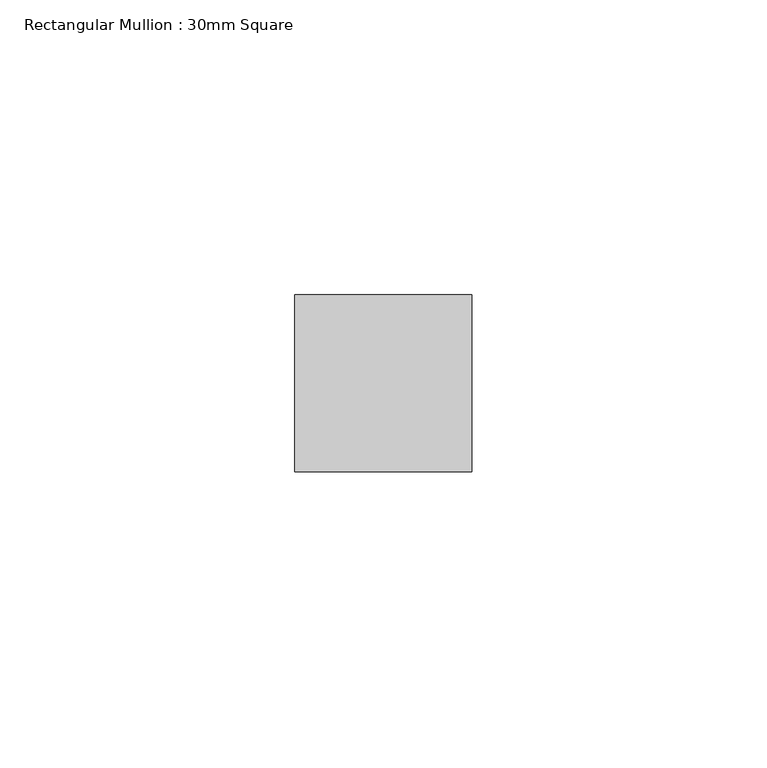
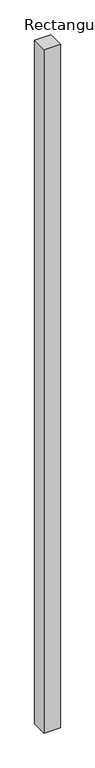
"""IFC4 building model written with IfcOpenShell, lengths in millimetres: member geometry, Rectangular Mullion : 30mm Square."""

from ifc_helpers import new_model, si_unit, frame, origin, place, context, project, spatial, polyline, outline, extrude, source, transform, mapped, element, save


def rectangular_mullion_30mm_square_374e1ff5(model_context):
    return source(origin(), model_context, "Body", "SweptSolid", [
        extrude(outline(polyline([(0.0, 15.0), (0.0, -15.0), (-30.0, -15.0), (-30.0, 15.0), (0.0, 15.0)])), frame((0.0, 0.0, -1333.8191487), z_axis=(0.0, 0.0, 1.0), x_axis=(1.0, 0.0, 0.0)), (0.0, 0.0, 1.0), 1333.8191487),
    ])


if __name__ == "__main__":
    model = new_model("IFC4")
    model_context = context("Model", 3, world=origin())
    ifc_project = project(units=[si_unit("LENGTHUNIT", "METRE", prefix="MILLI")], contexts=[model_context])
    site = spatial("IfcSite", under=ifc_project)
    building = spatial("IfcBuilding", under=site)
    placement = place(None, origin())
    rectangular_mullion_30mm_square_shape = rectangular_mullion_30mm_square_374e1ff5(model_context)
    element("IfcMember", 1, ObjectType="Rectangular Mullion : 30mm Square", at=placement, inside=building, context=model_context, shape_type="MappedRepresentation", body=[
        mapped(rectangular_mullion_30mm_square_shape, transform((0.0, 0.0, 0.0), x_axis=(1.0, 0.0, 0.0), y_axis=(0.0, 1.0, 0.0), z_axis=(0.0, 0.0, 1.0))),
    ])
    save(model, "model.ifc")
